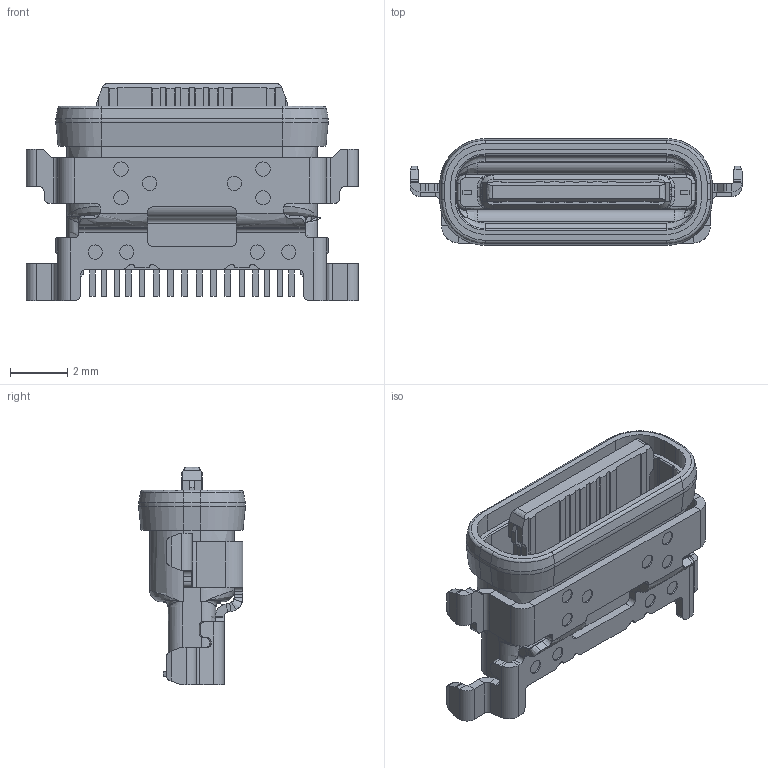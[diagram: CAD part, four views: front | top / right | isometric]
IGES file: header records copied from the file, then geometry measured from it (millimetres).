
Start section:  PTC IGES file: type_c_16pin_cut_118_x181.igs
Global section: file name: type_c_16pin_cut_118_x181.igs; native system: Pro/ENGINEER by Parametric Technology Corporation; preprocessor: 2010280; author: Administrator; organization: Unknown; date: 20210817.193829; units: millimetre
Bounding box: 11.6 x 3.74 x 7.6 mm (x, y, z)
Surface area: 491.4 mm2 (no closed solid volume)
Topology: 0 solids, 0 shells, 857 faces, 4377 edges, 4365 vertices
Faces by surface type: bspline 552, revolution 305
